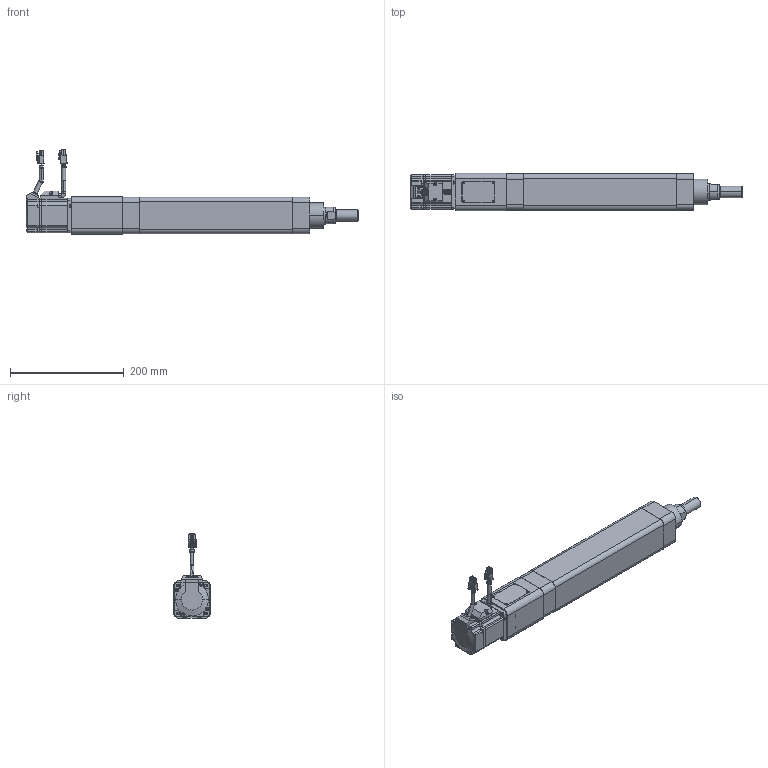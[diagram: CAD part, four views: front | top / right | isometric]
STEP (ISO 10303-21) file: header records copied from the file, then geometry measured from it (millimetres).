
FILE_DESCRIPTION (( 'STEP AP203' ), '1' );
FILE_NAME ('RKD50-D-FA-200W.400W-B3.STEP', '2025-01-23T10:44:01', ( '' ), ( '' ), 'SwSTEP 2.0', 'SolidWorks 2024', '' );
FILE_SCHEMA (( 'CONFIG_CONTROL_DESIGN' ));
Length unit declared in the file: millimetre
Products named in the file (15): 复件 接头050-009^RKD50-D-FA-200W.400W-B3; 复件 RKD-50-BASE-PT^复件 RKD50-A_RKD50-D-FA-200W.400W-B3; 复件 RKD-50-ZC^复件 RKD-50-D-NEARCAP-PT_复件 RKD50-A_RKD50-D-FA-200W.400W-B3; 复件 RKD50-A^RKD50-D-FA-200W.400W-B3; 复件 活塞杆^RKD50-D-FA-200W.400W-B3; 复件 联轴器座盖板050-017-01^RKD50-D-FA-200W.400W-B3; RKD50-D-FA-200W.400W-B3; 复件 RKD-50-HDG^复件 RKD-50-D-NEARCAP-PT_复件 RKD50-A_RKD50-D-FA-200W.400W-B3; 复件 RKD-50-CZ^复件 RKD-50-D-NEARCAP-PT_复件 RKD50-A_RKD50-D-FA-200W.400W-B3; 复件 roundnutsgb-M12^复件 RKD-50-D-NEARCAP-PT_复件 RKD50-A_RKD50-D-FA-200W.400W-B3; 复件 联轴器座050-017-400W^RKD50-D-FA-200W.400W-B3; 复件 双头拉杆螺栓M8X20^复件 RKD50-A_RKD50-D-FA-200W.400W-B3; 复件 RKD-50-FARCAP-PT^复件 RKD50-A_RKD50-D-FA-200W.400W-B3; 复件 伺服电机60x60-200W^RKD50-D-FA-200W.400W-B3; 复件 RKD-50-D-NEARCAP-PT^复件 RKD50-A_RKD50-D-FA-200W.400W-B3
Assembly tree (17 placements, depth 4):
  RKD50-D-FA-200W.400W-B3
    复件 RKD50-A^RKD50-D-FA-200W.400W-B3
      复件 RKD-50-BASE-PT^复件 RKD50-A_RKD50-D-FA-200W.400W-B3
      复件 RKD-50-FARCAP-PT^复件 RKD50-A_RKD50-D-FA-200W.400W-B3
      复件 RKD-50-D-NEARCAP-PT^复件 RKD50-A_RKD50-D-FA-200W.400W-B3
        复件 RKD-50-HDG^复件 RKD-50-D-NEARCAP-PT_复件 RKD50-A_RKD50-D-FA-200W.400W-B3
        复件 RKD-50-CZ^复件 RKD-50-D-NEARCAP-PT_复件 RKD50-A_RKD50-D-FA-200W.400W-B3
        复件 RKD-50-ZC^复件 RKD-50-D-NEARCAP-PT_复件 RKD50-A_RKD50-D-FA-200W.400W-B3
        复件 roundnutsgb-M12^复件 RKD-50-D-NEARCAP-PT_复件 RKD50-A_RKD50-D-FA-200W.400W-B3
      复件 双头拉杆螺栓M8X20^复件 RKD50-A_RKD50-D-FA-200W.400W-B3  x4
    复件 接头050-009^RKD50-D-FA-200W.400W-B3
    复件 活塞杆^RKD50-D-FA-200W.400W-B3
    复件 联轴器座盖板050-017-01^RKD50-D-FA-200W.400W-B3
    复件 联轴器座050-017-400W^RKD50-D-FA-200W.400W-B3
    复件 伺服电机60x60-200W^RKD50-D-FA-200W.400W-B3
Bounding box: 584.5 x 66 x 148.8 mm (x, y, z)
Volume: 1107728.8 mm3; surface area: 326328 mm2
Topology: 14 solids, 21 shells, 1525 faces, 4200 edges, 2779 vertices
Faces by surface type: plane 640, cylinder 582, cone 136, bspline 124, torus 29, sphere 14
Entity records: 47340 total; most frequent: CARTESIAN_POINT 13699, ORIENTED_EDGE 6728, DIRECTION 6565, EDGE_CURVE 3366, AXIS2_PLACEMENT_3D 2353, VERTEX_POINT 2202, LINE 1859, VECTOR 1859
